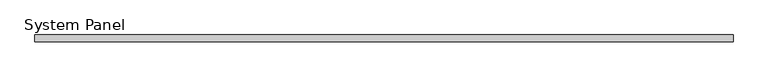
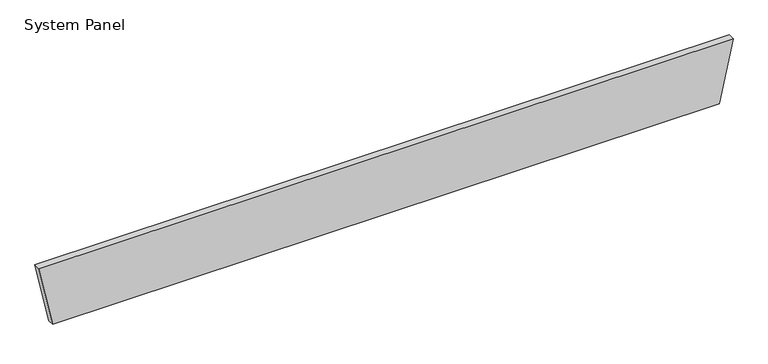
"""IFC4 building model written with IfcOpenShell, lengths in millimetres: plate geometry, System Panel : Equitilt_125mm_Plain_Surfmist."""

from ifc_helpers import new_model, si_unit, frame, origin, place, context, project, spatial, polyline, outline, extrude, source, transform, mapped, element, save


def system_panel_8b758ca3(model_context):
    return source(origin(), model_context, "Body", "SweptSolid", [
        extrude(outline(polyline([(0.0, -6260.8716619), (0.0, 6260.8716619), (1200.0, 6521.7433237), (1200.0, -6521.7433237), (0.0, -6260.8716619)])), frame((0.0, -125.0, 0.0), z_axis=(0.0, 1.0, 0.0), x_axis=(0.0, 0.0, 1.0)), (0.0, 0.0, 1.0), 125.0),
    ])


if __name__ == "__main__":
    model = new_model("IFC4")
    model_context = context("Model", 3, world=origin())
    ifc_project = project(units=[si_unit("LENGTHUNIT", "METRE", prefix="MILLI")], contexts=[model_context])
    site = spatial("IfcSite", under=ifc_project)
    building = spatial("IfcBuilding", under=site)
    placement = place(None, origin())
    system_panel_shape = system_panel_8b758ca3(model_context)
    element("IfcPlate", 1, ObjectType="System Panel : Equitilt_125mm_Plain_Surfmist", at=placement, inside=building, context=model_context, shape_type="MappedRepresentation", body=[
        mapped(system_panel_shape, transform((0.0, 0.0, 0.0), x_axis=(1.0, 0.0, 0.0), y_axis=(0.0, 1.0, 0.0), z_axis=(0.0, 0.0, 1.0))),
    ])
    save(model, "model.ifc")
